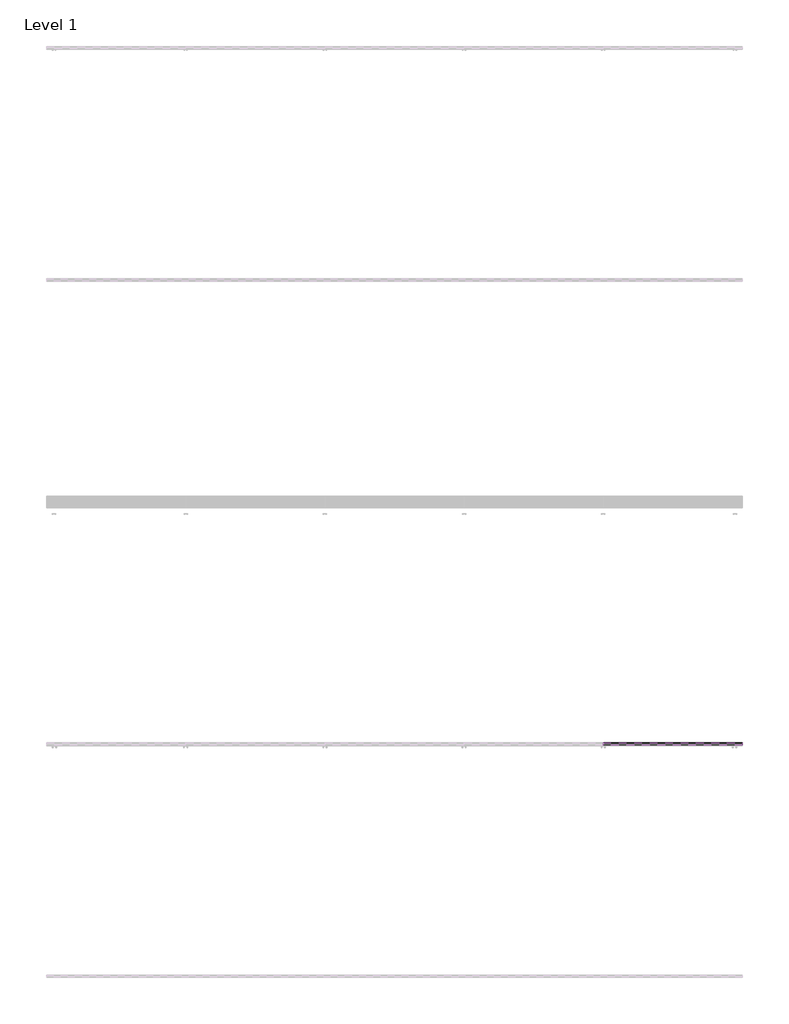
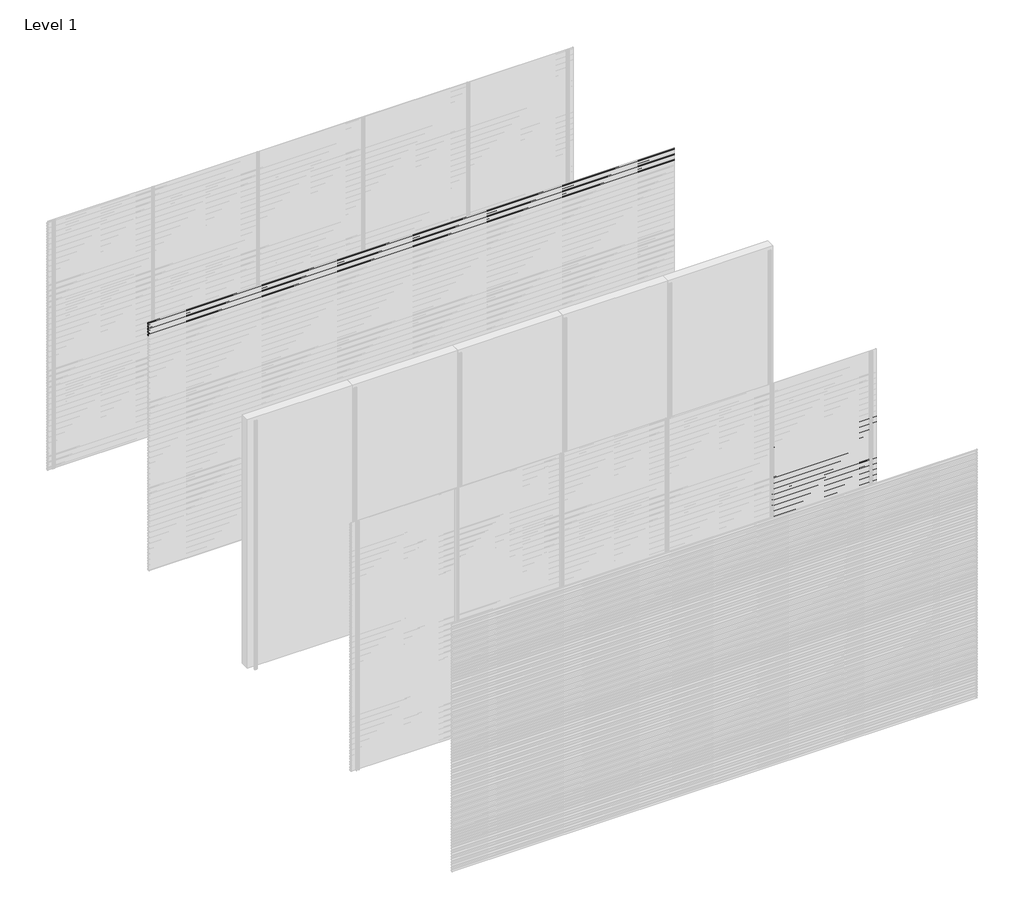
# One storey, part 70 of 77: 72 proxies.
"""IFC4 building model written with IfcOpenShell, lengths in millimetres."""

from ifc_helpers import new_model, si_unit, frame, origin, place, context, project, spatial, polyline, outline, extrude, element, save

model = new_model("IFC4")

# Units and contexts
model_context = context("Model", 3, world=origin())
ifc_project = project(units=[si_unit("LENGTHUNIT", "METRE", prefix="MILLI")], contexts=[model_context])

# Site, building, storey
site = spatial("IfcSite", under=ifc_project)
building = spatial("IfcBuilding", under=site)
storey = spatial("IfcBuildingStorey", under=building, Name="Level 1", Elevation=0.0)

# Proxies
placement = place(None, origin())
element("IfcBuildingElementProxy", 1, Name="Wall Sweeps", at=placement, inside=storey, context=model_context, shape_type="SweptSolid", body=[
    extrude(outline(polyline([(-1978.6, 2972.5359887), (-1998.0, 2983.7366691), (-1998.0, 2997.0), (-1997.0, 2997.0), (-1997.0, 2984.3191057), (-1977.6, 2973.1185105), (-1977.6, 2959.5185105), (-1978.6, 2961.0953129), (-1978.6, 2966.9032062), (-1995.9773817, 2958.8), (-1996.4, 2959.7063078), (-1978.6, 2968.0065841), (-1978.6, 2972.5359887)])), frame((0.0, 0.0, 0.0), z_axis=(1.0, 0.0, 0.0), x_axis=(0.0, 1.0, 0.0)), (0.0, 0.0, 1.0), 6000.0),
])
element("IfcBuildingElementProxy", 2, Name="Wall Sweeps", at=placement, inside=storey, context=model_context, shape_type="SweptSolid", body=[
    extrude(outline(polyline([(-1978.6, 2939.2359887), (-1998.0, 2950.4366691), (-1998.0, 2963.7), (-1997.0, 2963.7), (-1997.0, 2951.0191057), (-1977.6, 2939.8185105), (-1977.6, 2926.2185105), (-1978.6, 2927.7953129), (-1978.6, 2933.6032062), (-1995.9773817, 2925.5), (-1996.4, 2926.4063078), (-1978.6, 2934.7065841), (-1978.6, 2939.2359887)])), frame((0.0, 0.0, 0.0), z_axis=(1.0, 0.0, 0.0), x_axis=(0.0, 1.0, 0.0)), (0.0, 0.0, 1.0), 6000.0),
])
element("IfcBuildingElementProxy", 3, Name="Wall Sweeps", at=placement, inside=storey, context=model_context, shape_type="SweptSolid", body=[
    extrude(outline(polyline([(-1978.6, 2905.9359887), (-1998.0, 2917.1366691), (-1998.0, 2930.4), (-1997.0, 2930.4), (-1997.0, 2917.7191057), (-1977.6, 2906.5185105), (-1977.6, 2892.9185105), (-1978.6, 2894.4953129), (-1978.6, 2900.3032062), (-1995.9773817, 2892.2), (-1996.4, 2893.1063078), (-1978.6, 2901.4065841), (-1978.6, 2905.9359887)])), frame((0.0, 0.0, 0.0), z_axis=(1.0, 0.0, 0.0), x_axis=(0.0, 1.0, 0.0)), (0.0, 0.0, 1.0), 6000.0),
])
element("IfcBuildingElementProxy", 4, Name="Wall Sweeps", at=placement, inside=storey, context=model_context, shape_type="SweptSolid", body=[
    extrude(outline(polyline([(-1978.6, 2872.6359887), (-1998.0, 2883.8366691), (-1998.0, 2897.1), (-1997.0, 2897.1), (-1997.0, 2884.4191057), (-1977.6, 2873.2185105), (-1977.6, 2859.6185105), (-1978.6, 2861.1953129), (-1978.6, 2867.0032062), (-1995.9773817, 2858.9), (-1996.4, 2859.8063078), (-1978.6, 2868.1065841), (-1978.6, 2872.6359887)])), frame((0.0, 0.0, 0.0), z_axis=(1.0, 0.0, 0.0), x_axis=(0.0, 1.0, 0.0)), (0.0, 0.0, 1.0), 6000.0),
])
element("IfcBuildingElementProxy", 5, Name="Wall Sweeps", at=placement, inside=storey, context=model_context, shape_type="SweptSolid", body=[
    extrude(outline(polyline([(-1978.6, 2839.3359887), (-1998.0, 2850.5366691), (-1998.0, 2863.8), (-1997.0, 2863.8), (-1997.0, 2851.1191057), (-1977.6, 2839.9185105), (-1977.6, 2826.3185105), (-1978.6, 2827.8953129), (-1978.6, 2833.7032062), (-1995.9773817, 2825.6), (-1996.4, 2826.5063078), (-1978.6, 2834.8065841), (-1978.6, 2839.3359887)])), frame((0.0, 0.0, 0.0), z_axis=(1.0, 0.0, 0.0), x_axis=(0.0, 1.0, 0.0)), (0.0, 0.0, 1.0), 6000.0),
])
element("IfcBuildingElementProxy", 6, Name="Wall Sweeps", at=placement, inside=storey, context=model_context, shape_type="SweptSolid", body=[
    extrude(outline(polyline([(-5978.6, 2206.6359887), (-5998.0, 2217.8366691), (-5998.0, 2231.1), (-5997.0, 2231.1), (-5997.0, 2218.4191057), (-5977.6, 2207.2185105), (-5977.6, 2193.6185105), (-5978.6, 2195.1953129), (-5978.6, 2201.0032062), (-5995.9773817, 2192.9), (-5996.4, 2193.8063078), (-5978.6, 2202.1065841), (-5978.6, 2206.6359887)])), frame((4800.0, 0.0, 0.0), z_axis=(1.0, 0.0, 0.0), x_axis=(0.0, 1.0, 0.0)), (0.0, 0.0, 1.0), 1200.0),
])
element("IfcBuildingElementProxy", 7, Name="Wall Sweeps", at=placement, inside=storey, context=model_context, shape_type="SweptSolid", body=[
    extrude(outline(polyline([(-5978.6, 2173.3359887), (-5998.0, 2184.5366691), (-5998.0, 2197.8), (-5997.0, 2197.8), (-5997.0, 2185.1191057), (-5977.6, 2173.9185105), (-5977.6, 2160.3185105), (-5978.6, 2161.8953129), (-5978.6, 2167.7032062), (-5995.9773817, 2159.6), (-5996.4, 2160.5063078), (-5978.6, 2168.8065841), (-5978.6, 2173.3359887)])), frame((4800.0, 0.0, 0.0), z_axis=(1.0, 0.0, 0.0), x_axis=(0.0, 1.0, 0.0)), (0.0, 0.0, 1.0), 1200.0),
])
element("IfcBuildingElementProxy", 8, Name="Wall Sweeps", at=placement, inside=storey, context=model_context, shape_type="SweptSolid", body=[
    extrude(outline(polyline([(-5978.6, 2140.0359887), (-5998.0, 2151.2366691), (-5998.0, 2164.5), (-5997.0, 2164.5), (-5997.0, 2151.8191057), (-5977.6, 2140.6185105), (-5977.6, 2127.0185105), (-5978.6, 2128.5953129), (-5978.6, 2134.4032062), (-5995.9773817, 2126.3), (-5996.4, 2127.2063078), (-5978.6, 2135.5065841), (-5978.6, 2140.0359887)])), frame((4800.0, 0.0, 0.0), z_axis=(1.0, 0.0, 0.0), x_axis=(0.0, 1.0, 0.0)), (0.0, 0.0, 1.0), 1200.0),
])
element("IfcBuildingElementProxy", 9, Name="Wall Sweeps", at=placement, inside=storey, context=model_context, shape_type="SweptSolid", body=[
    extrude(outline(polyline([(-5978.6, 2106.7359887), (-5998.0, 2117.9366691), (-5998.0, 2131.2), (-5997.0, 2131.2), (-5997.0, 2118.5191057), (-5977.6, 2107.3185105), (-5977.6, 2093.7185105), (-5978.6, 2095.2953129), (-5978.6, 2101.1032062), (-5995.9773817, 2093.0), (-5996.4, 2093.9063078), (-5978.6, 2102.2065841), (-5978.6, 2106.7359887)])), frame((4800.0, 0.0, 0.0), z_axis=(1.0, 0.0, 0.0), x_axis=(0.0, 1.0, 0.0)), (0.0, 0.0, 1.0), 1200.0),
])
element("IfcBuildingElementProxy", 10, Name="Wall Sweeps", at=placement, inside=storey, context=model_context, shape_type="SweptSolid", body=[
    extrude(outline(polyline([(-5978.6, 2073.4359887), (-5998.0, 2084.6366691), (-5998.0, 2097.9), (-5997.0, 2097.9), (-5997.0, 2085.2191057), (-5977.6, 2074.0185105), (-5977.6, 2060.4185105), (-5978.6, 2061.9953129), (-5978.6, 2067.8032062), (-5995.9773817, 2059.7), (-5996.4, 2060.6063078), (-5978.6, 2068.9065841), (-5978.6, 2073.4359887)])), frame((4800.0, 0.0, 0.0), z_axis=(1.0, 0.0, 0.0), x_axis=(0.0, 1.0, 0.0)), (0.0, 0.0, 1.0), 1200.0),
])
element("IfcBuildingElementProxy", 11, Name="Wall Sweeps", at=placement, inside=storey, context=model_context, shape_type="SweptSolid", body=[
    extrude(outline(polyline([(-5978.6, 2040.1359887), (-5998.0, 2051.3366691), (-5998.0, 2064.6), (-5997.0, 2064.6), (-5997.0, 2051.9191057), (-5977.6, 2040.7185105), (-5977.6, 2027.1185105), (-5978.6, 2028.6953129), (-5978.6, 2034.5032062), (-5995.9773817, 2026.4), (-5996.4, 2027.3063078), (-5978.6, 2035.6065841), (-5978.6, 2040.1359887)])), frame((4800.0, 0.0, 0.0), z_axis=(1.0, 0.0, 0.0), x_axis=(0.0, 1.0, 0.0)), (0.0, 0.0, 1.0), 1200.0),
])
element("IfcBuildingElementProxy", 12, Name="Wall Sweeps", at=placement, inside=storey, context=model_context, shape_type="SweptSolid", body=[
    extrude(outline(polyline([(-5978.6, 2006.8359887), (-5998.0, 2018.0366691), (-5998.0, 2031.3), (-5997.0, 2031.3), (-5997.0, 2018.6191057), (-5977.6, 2007.4185105), (-5977.6, 1993.8185105), (-5978.6, 1995.3953129), (-5978.6, 2001.2032062), (-5995.9773817, 1993.1), (-5996.4, 1994.0063078), (-5978.6, 2002.3065841), (-5978.6, 2006.8359887)])), frame((4800.0, 0.0, 0.0), z_axis=(1.0, 0.0, 0.0), x_axis=(0.0, 1.0, 0.0)), (0.0, 0.0, 1.0), 1200.0),
])
element("IfcBuildingElementProxy", 13, Name="Wall Sweeps", at=placement, inside=storey, context=model_context, shape_type="SweptSolid", body=[
    extrude(outline(polyline([(-5978.6, 1973.5359887), (-5998.0, 1984.7366691), (-5998.0, 1998.0), (-5997.0, 1998.0), (-5997.0, 1985.3191057), (-5977.6, 1974.1185105), (-5977.6, 1960.5185105), (-5978.6, 1962.0953129), (-5978.6, 1967.9032062), (-5995.9773817, 1959.8), (-5996.4, 1960.7063078), (-5978.6, 1969.0065841), (-5978.6, 1973.5359887)])), frame((4800.0, 0.0, 0.0), z_axis=(1.0, 0.0, 0.0), x_axis=(0.0, 1.0, 0.0)), (0.0, 0.0, 1.0), 1200.0),
])
element("IfcBuildingElementProxy", 14, Name="Wall Sweeps", at=placement, inside=storey, context=model_context, shape_type="SweptSolid", body=[
    extrude(outline(polyline([(-5978.6, 1940.2359887), (-5998.0, 1951.4366691), (-5998.0, 1964.7), (-5997.0, 1964.7), (-5997.0, 1952.0191057), (-5977.6, 1940.8185105), (-5977.6, 1927.2185105), (-5978.6, 1928.7953129), (-5978.6, 1934.6032062), (-5995.9773817, 1926.5), (-5996.4, 1927.4063078), (-5978.6, 1935.7065841), (-5978.6, 1940.2359887)])), frame((4800.0, 0.0, 0.0), z_axis=(1.0, 0.0, 0.0), x_axis=(0.0, 1.0, 0.0)), (0.0, 0.0, 1.0), 1200.0),
])
element("IfcBuildingElementProxy", 15, Name="Wall Sweeps", at=placement, inside=storey, context=model_context, shape_type="SweptSolid", body=[
    extrude(outline(polyline([(-5978.6, 1906.9359887), (-5998.0, 1918.1366691), (-5998.0, 1931.4), (-5997.0, 1931.4), (-5997.0, 1918.7191057), (-5977.6, 1907.5185105), (-5977.6, 1893.9185105), (-5978.6, 1895.4953129), (-5978.6, 1901.3032062), (-5995.9773817, 1893.2), (-5996.4, 1894.1063078), (-5978.6, 1902.4065841), (-5978.6, 1906.9359887)])), frame((4800.0, 0.0, 0.0), z_axis=(1.0, 0.0, 0.0), x_axis=(0.0, 1.0, 0.0)), (0.0, 0.0, 1.0), 1200.0),
])
element("IfcBuildingElementProxy", 16, Name="Wall Sweeps", at=placement, inside=storey, context=model_context, shape_type="SweptSolid", body=[
    extrude(outline(polyline([(-5978.6, 1873.6359887), (-5998.0, 1884.8366691), (-5998.0, 1898.1), (-5997.0, 1898.1), (-5997.0, 1885.4191057), (-5977.6, 1874.2185105), (-5977.6, 1860.6185105), (-5978.6, 1862.1953129), (-5978.6, 1868.0032062), (-5995.9773817, 1859.9), (-5996.4, 1860.8063078), (-5978.6, 1869.1065841), (-5978.6, 1873.6359887)])), frame((4800.0, 0.0, 0.0), z_axis=(1.0, 0.0, 0.0), x_axis=(0.0, 1.0, 0.0)), (0.0, 0.0, 1.0), 1200.0),
])
element("IfcBuildingElementProxy", 17, Name="Wall Sweeps", at=placement, inside=storey, context=model_context, shape_type="SweptSolid", body=[
    extrude(outline(polyline([(-5978.6, 1840.3359887), (-5998.0, 1851.5366691), (-5998.0, 1864.8), (-5997.0, 1864.8), (-5997.0, 1852.1191057), (-5977.6, 1840.9185105), (-5977.6, 1827.3185105), (-5978.6, 1828.8953129), (-5978.6, 1834.7032062), (-5995.9773817, 1826.6), (-5996.4, 1827.5063078), (-5978.6, 1835.8065841), (-5978.6, 1840.3359887)])), frame((4800.0, 0.0, 0.0), z_axis=(1.0, 0.0, 0.0), x_axis=(0.0, 1.0, 0.0)), (0.0, 0.0, 1.0), 1200.0),
])
element("IfcBuildingElementProxy", 18, Name="Wall Sweeps", at=placement, inside=storey, context=model_context, shape_type="SweptSolid", body=[
    extrude(outline(polyline([(-5978.6, 1807.0359887), (-5998.0, 1818.2366691), (-5998.0, 1831.5), (-5997.0, 1831.5), (-5997.0, 1818.8191057), (-5977.6, 1807.6185105), (-5977.6, 1794.0185105), (-5978.6, 1795.5953129), (-5978.6, 1801.4032062), (-5995.9773817, 1793.3), (-5996.4, 1794.2063078), (-5978.6, 1802.5065841), (-5978.6, 1807.0359887)])), frame((4800.0, 0.0, 0.0), z_axis=(1.0, 0.0, 0.0), x_axis=(0.0, 1.0, 0.0)), (0.0, 0.0, 1.0), 1200.0),
])
element("IfcBuildingElementProxy", 19, Name="Wall Sweeps", at=placement, inside=storey, context=model_context, shape_type="SweptSolid", body=[
    extrude(outline(polyline([(-5978.6, 1773.7359887), (-5998.0, 1784.9366691), (-5998.0, 1798.2), (-5997.0, 1798.2), (-5997.0, 1785.5191057), (-5977.6, 1774.3185105), (-5977.6, 1760.7185105), (-5978.6, 1762.2953129), (-5978.6, 1768.1032062), (-5995.9773817, 1760.0), (-5996.4, 1760.9063078), (-5978.6, 1769.2065841), (-5978.6, 1773.7359887)])), frame((4800.0, 0.0, 0.0), z_axis=(1.0, 0.0, 0.0), x_axis=(0.0, 1.0, 0.0)), (0.0, 0.0, 1.0), 1200.0),
])
element("IfcBuildingElementProxy", 20, Name="Wall Sweeps", at=placement, inside=storey, context=model_context, shape_type="SweptSolid", body=[
    extrude(outline(polyline([(-5978.6, 1740.4359887), (-5998.0, 1751.6366691), (-5998.0, 1764.9), (-5997.0, 1764.9), (-5997.0, 1752.2191057), (-5977.6, 1741.0185105), (-5977.6, 1727.4185105), (-5978.6, 1728.9953129), (-5978.6, 1734.8032062), (-5995.9773817, 1726.7), (-5996.4, 1727.6063078), (-5978.6, 1735.9065841), (-5978.6, 1740.4359887)])), frame((4800.0, 0.0, 0.0), z_axis=(1.0, 0.0, 0.0), x_axis=(0.0, 1.0, 0.0)), (0.0, 0.0, 1.0), 1200.0),
])
element("IfcBuildingElementProxy", 21, Name="Wall Sweeps", at=placement, inside=storey, context=model_context, shape_type="SweptSolid", body=[
    extrude(outline(polyline([(-5978.6, 1707.1359887), (-5998.0, 1718.3366691), (-5998.0, 1731.6), (-5997.0, 1731.6), (-5997.0, 1718.9191057), (-5977.6, 1707.7185105), (-5977.6, 1694.1185105), (-5978.6, 1695.6953129), (-5978.6, 1701.5032062), (-5995.9773817, 1693.4), (-5996.4, 1694.3063078), (-5978.6, 1702.6065841), (-5978.6, 1707.1359887)])), frame((4800.0, 0.0, 0.0), z_axis=(1.0, 0.0, 0.0), x_axis=(0.0, 1.0, 0.0)), (0.0, 0.0, 1.0), 1200.0),
])
element("IfcBuildingElementProxy", 22, Name="Wall Sweeps", at=placement, inside=storey, context=model_context, shape_type="SweptSolid", body=[
    extrude(outline(polyline([(-5978.6, 1673.8359887), (-5998.0, 1685.0366691), (-5998.0, 1698.3), (-5997.0, 1698.3), (-5997.0, 1685.6191057), (-5977.6, 1674.4185105), (-5977.6, 1660.8185105), (-5978.6, 1662.3953129), (-5978.6, 1668.2032062), (-5995.9773817, 1660.1), (-5996.4, 1661.0063078), (-5978.6, 1669.3065841), (-5978.6, 1673.8359887)])), frame((4800.0, 0.0, 0.0), z_axis=(1.0, 0.0, 0.0), x_axis=(0.0, 1.0, 0.0)), (0.0, 0.0, 1.0), 1200.0),
])
element("IfcBuildingElementProxy", 23, Name="Wall Sweeps", at=placement, inside=storey, context=model_context, shape_type="SweptSolid", body=[
    extrude(outline(polyline([(-5978.6, 1640.5359887), (-5998.0, 1651.7366691), (-5998.0, 1665.0), (-5997.0, 1665.0), (-5997.0, 1652.3191057), (-5977.6, 1641.1185105), (-5977.6, 1627.5185105), (-5978.6, 1629.0953129), (-5978.6, 1634.9032062), (-5995.9773817, 1626.8), (-5996.4, 1627.7063078), (-5978.6, 1636.0065841), (-5978.6, 1640.5359887)])), frame((4800.0, 0.0, 0.0), z_axis=(1.0, 0.0, 0.0), x_axis=(0.0, 1.0, 0.0)), (0.0, 0.0, 1.0), 1200.0),
])
element("IfcBuildingElementProxy", 24, Name="Wall Sweeps", at=placement, inside=storey, context=model_context, shape_type="SweptSolid", body=[
    extrude(outline(polyline([(-5978.6, 1607.2359887), (-5998.0, 1618.4366691), (-5998.0, 1631.7), (-5997.0, 1631.7), (-5997.0, 1619.0191057), (-5977.6, 1607.8185105), (-5977.6, 1594.2185105), (-5978.6, 1595.7953129), (-5978.6, 1601.6032062), (-5995.9773817, 1593.5), (-5996.4, 1594.4063078), (-5978.6, 1602.7065841), (-5978.6, 1607.2359887)])), frame((4800.0, 0.0, 0.0), z_axis=(1.0, 0.0, 0.0), x_axis=(0.0, 1.0, 0.0)), (0.0, 0.0, 1.0), 1200.0),
])
element("IfcBuildingElementProxy", 25, Name="Wall Sweeps", at=placement, inside=storey, context=model_context, shape_type="SweptSolid", body=[
    extrude(outline(polyline([(-5978.6, 1573.9359887), (-5998.0, 1585.1366691), (-5998.0, 1598.4), (-5997.0, 1598.4), (-5997.0, 1585.7191057), (-5977.6, 1574.5185105), (-5977.6, 1560.9185105), (-5978.6, 1562.4953129), (-5978.6, 1568.3032062), (-5995.9773817, 1560.2), (-5996.4, 1561.1063078), (-5978.6, 1569.4065841), (-5978.6, 1573.9359887)])), frame((4800.0, 0.0, 0.0), z_axis=(1.0, 0.0, 0.0), x_axis=(0.0, 1.0, 0.0)), (0.0, 0.0, 1.0), 1200.0),
])
element("IfcBuildingElementProxy", 26, Name="Wall Sweeps", at=placement, inside=storey, context=model_context, shape_type="SweptSolid", body=[
    extrude(outline(polyline([(-5978.6, 1540.6359887), (-5998.0, 1551.8366691), (-5998.0, 1565.1), (-5997.0, 1565.1), (-5997.0, 1552.4191057), (-5977.6, 1541.2185105), (-5977.6, 1527.6185105), (-5978.6, 1529.1953129), (-5978.6, 1535.0032062), (-5995.9773817, 1526.9), (-5996.4, 1527.8063078), (-5978.6, 1536.1065841), (-5978.6, 1540.6359887)])), frame((4800.0, 0.0, 0.0), z_axis=(1.0, 0.0, 0.0), x_axis=(0.0, 1.0, 0.0)), (0.0, 0.0, 1.0), 1200.0),
])
element("IfcBuildingElementProxy", 27, Name="Wall Sweeps", at=placement, inside=storey, context=model_context, shape_type="SweptSolid", body=[
    extrude(outline(polyline([(-5978.6, 1507.3359887), (-5998.0, 1518.5366691), (-5998.0, 1531.8), (-5997.0, 1531.8), (-5997.0, 1519.1191057), (-5977.6, 1507.9185105), (-5977.6, 1494.3185105), (-5978.6, 1495.8953129), (-5978.6, 1501.7032062), (-5995.9773817, 1493.6), (-5996.4, 1494.5063078), (-5978.6, 1502.8065841), (-5978.6, 1507.3359887)])), frame((4800.0, 0.0, 0.0), z_axis=(1.0, 0.0, 0.0), x_axis=(0.0, 1.0, 0.0)), (0.0, 0.0, 1.0), 1200.0),
])
element("IfcBuildingElementProxy", 28, Name="Wall Sweeps", at=placement, inside=storey, context=model_context, shape_type="SweptSolid", body=[
    extrude(outline(polyline([(-5978.6, 1474.0359887), (-5998.0, 1485.2366691), (-5998.0, 1498.5), (-5997.0, 1498.5), (-5997.0, 1485.8191057), (-5977.6, 1474.6185105), (-5977.6, 1461.0185105), (-5978.6, 1462.5953129), (-5978.6, 1468.4032062), (-5995.9773817, 1460.3), (-5996.4, 1461.2063078), (-5978.6, 1469.5065841), (-5978.6, 1474.0359887)])), frame((4800.0, 0.0, 0.0), z_axis=(1.0, 0.0, 0.0), x_axis=(0.0, 1.0, 0.0)), (0.0, 0.0, 1.0), 1200.0),
])
element("IfcBuildingElementProxy", 29, Name="Wall Sweeps", at=placement, inside=storey, context=model_context, shape_type="SweptSolid", body=[
    extrude(outline(polyline([(-5978.6, 1440.7359887), (-5998.0, 1451.9366691), (-5998.0, 1465.2), (-5997.0, 1465.2), (-5997.0, 1452.5191057), (-5977.6, 1441.3185105), (-5977.6, 1427.7185105), (-5978.6, 1429.2953129), (-5978.6, 1435.1032062), (-5995.9773817, 1427.0), (-5996.4, 1427.9063078), (-5978.6, 1436.2065841), (-5978.6, 1440.7359887)])), frame((4800.0, 0.0, 0.0), z_axis=(1.0, 0.0, 0.0), x_axis=(0.0, 1.0, 0.0)), (0.0, 0.0, 1.0), 1200.0),
])
element("IfcBuildingElementProxy", 30, Name="Wall Sweeps", at=placement, inside=storey, context=model_context, shape_type="SweptSolid", body=[
    extrude(outline(polyline([(-5978.6, 1407.4359887), (-5998.0, 1418.6366691), (-5998.0, 1431.9), (-5997.0, 1431.9), (-5997.0, 1419.2191057), (-5977.6, 1408.0185105), (-5977.6, 1394.4185105), (-5978.6, 1395.9953129), (-5978.6, 1401.8032062), (-5995.9773817, 1393.7), (-5996.4, 1394.6063078), (-5978.6, 1402.9065841), (-5978.6, 1407.4359887)])), frame((4800.0, 0.0, 0.0), z_axis=(1.0, 0.0, 0.0), x_axis=(0.0, 1.0, 0.0)), (0.0, 0.0, 1.0), 1200.0),
])
element("IfcBuildingElementProxy", 31, Name="Wall Sweeps", at=placement, inside=storey, context=model_context, shape_type="SweptSolid", body=[
    extrude(outline(polyline([(-5978.6, 1374.1359887), (-5998.0, 1385.3366691), (-5998.0, 1398.6), (-5997.0, 1398.6), (-5997.0, 1385.9191057), (-5977.6, 1374.7185105), (-5977.6, 1361.1185105), (-5978.6, 1362.6953129), (-5978.6, 1368.5032062), (-5995.9773817, 1360.4), (-5996.4, 1361.3063078), (-5978.6, 1369.6065841), (-5978.6, 1374.1359887)])), frame((4800.0, 0.0, 0.0), z_axis=(1.0, 0.0, 0.0), x_axis=(0.0, 1.0, 0.0)), (0.0, 0.0, 1.0), 1200.0),
])
element("IfcBuildingElementProxy", 32, Name="Wall Sweeps", at=placement, inside=storey, context=model_context, shape_type="SweptSolid", body=[
    extrude(outline(polyline([(-5978.6, 1340.8359887), (-5998.0, 1352.0366691), (-5998.0, 1365.3), (-5997.0, 1365.3), (-5997.0, 1352.6191057), (-5977.6, 1341.4185105), (-5977.6, 1327.8185105), (-5978.6, 1329.3953129), (-5978.6, 1335.2032062), (-5995.9773817, 1327.1), (-5996.4, 1328.0063078), (-5978.6, 1336.3065841), (-5978.6, 1340.8359887)])), frame((4800.0, 0.0, 0.0), z_axis=(1.0, 0.0, 0.0), x_axis=(0.0, 1.0, 0.0)), (0.0, 0.0, 1.0), 1200.0),
])
element("IfcBuildingElementProxy", 33, Name="Wall Sweeps", at=placement, inside=storey, context=model_context, shape_type="SweptSolid", body=[
    extrude(outline(polyline([(-5978.6, 1307.5359887), (-5998.0, 1318.7366691), (-5998.0, 1332.0), (-5997.0, 1332.0), (-5997.0, 1319.3191057), (-5977.6, 1308.1185105), (-5977.6, 1294.5185105), (-5978.6, 1296.0953129), (-5978.6, 1301.9032062), (-5995.9773817, 1293.8), (-5996.4, 1294.7063078), (-5978.6, 1303.0065841), (-5978.6, 1307.5359887)])), frame((4800.0, 0.0, 0.0), z_axis=(1.0, 0.0, 0.0), x_axis=(0.0, 1.0, 0.0)), (0.0, 0.0, 1.0), 1200.0),
])
element("IfcBuildingElementProxy", 34, Name="Wall Sweeps", at=placement, inside=storey, context=model_context, shape_type="SweptSolid", body=[
    extrude(outline(polyline([(-5978.6, 1274.2359887), (-5998.0, 1285.4366691), (-5998.0, 1298.7), (-5997.0, 1298.7), (-5997.0, 1286.0191057), (-5977.6, 1274.8185105), (-5977.6, 1261.2185105), (-5978.6, 1262.7953129), (-5978.6, 1268.6032062), (-5995.9773817, 1260.5), (-5996.4, 1261.4063078), (-5978.6, 1269.7065841), (-5978.6, 1274.2359887)])), frame((4800.0, 0.0, 0.0), z_axis=(1.0, 0.0, 0.0), x_axis=(0.0, 1.0, 0.0)), (0.0, 0.0, 1.0), 1200.0),
])
element("IfcBuildingElementProxy", 35, Name="Wall Sweeps", at=placement, inside=storey, context=model_context, shape_type="SweptSolid", body=[
    extrude(outline(polyline([(-5978.6, 1240.9359887), (-5998.0, 1252.1366691), (-5998.0, 1265.4), (-5997.0, 1265.4), (-5997.0, 1252.7191057), (-5977.6, 1241.5185105), (-5977.6, 1227.9185105), (-5978.6, 1229.4953129), (-5978.6, 1235.3032062), (-5995.9773817, 1227.2), (-5996.4, 1228.1063078), (-5978.6, 1236.4065841), (-5978.6, 1240.9359887)])), frame((4800.0, 0.0, 0.0), z_axis=(1.0, 0.0, 0.0), x_axis=(0.0, 1.0, 0.0)), (0.0, 0.0, 1.0), 1200.0),
])
element("IfcBuildingElementProxy", 36, Name="Wall Sweeps", at=placement, inside=storey, context=model_context, shape_type="SweptSolid", body=[
    extrude(outline(polyline([(-5978.6, 1207.6359887), (-5998.0, 1218.8366691), (-5998.0, 1232.1), (-5997.0, 1232.1), (-5997.0, 1219.4191057), (-5977.6, 1208.2185105), (-5977.6, 1194.6185105), (-5978.6, 1196.1953129), (-5978.6, 1202.0032062), (-5995.9773817, 1193.9), (-5996.4, 1194.8063078), (-5978.6, 1203.1065841), (-5978.6, 1207.6359887)])), frame((4800.0, 0.0, 0.0), z_axis=(1.0, 0.0, 0.0), x_axis=(0.0, 1.0, 0.0)), (0.0, 0.0, 1.0), 1200.0),
])
element("IfcBuildingElementProxy", 37, Name="Wall Sweeps", at=placement, inside=storey, context=model_context, shape_type="SweptSolid", body=[
    extrude(outline(polyline([(-5978.6, 1174.3359887), (-5998.0, 1185.5366691), (-5998.0, 1198.8), (-5997.0, 1198.8), (-5997.0, 1186.1191057), (-5977.6, 1174.9185105), (-5977.6, 1161.3185105), (-5978.6, 1162.8953129), (-5978.6, 1168.7032062), (-5995.9773817, 1160.6), (-5996.4, 1161.5063078), (-5978.6, 1169.8065841), (-5978.6, 1174.3359887)])), frame((4800.0, 0.0, 0.0), z_axis=(1.0, 0.0, 0.0), x_axis=(0.0, 1.0, 0.0)), (0.0, 0.0, 1.0), 1200.0),
])
element("IfcBuildingElementProxy", 38, Name="Wall Sweeps", at=placement, inside=storey, context=model_context, shape_type="SweptSolid", body=[
    extrude(outline(polyline([(-5978.6, 1141.0359887), (-5998.0, 1152.2366691), (-5998.0, 1165.5), (-5997.0, 1165.5), (-5997.0, 1152.8191057), (-5977.6, 1141.6185105), (-5977.6, 1128.0185105), (-5978.6, 1129.5953129), (-5978.6, 1135.4032062), (-5995.9773817, 1127.3), (-5996.4, 1128.2063078), (-5978.6, 1136.5065841), (-5978.6, 1141.0359887)])), frame((4800.0, 0.0, 0.0), z_axis=(1.0, 0.0, 0.0), x_axis=(0.0, 1.0, 0.0)), (0.0, 0.0, 1.0), 1200.0),
])
element("IfcBuildingElementProxy", 39, Name="Wall Sweeps", at=placement, inside=storey, context=model_context, shape_type="SweptSolid", body=[
    extrude(outline(polyline([(-5978.6, 1107.7359887), (-5998.0, 1118.9366691), (-5998.0, 1132.2), (-5997.0, 1132.2), (-5997.0, 1119.5191057), (-5977.6, 1108.3185105), (-5977.6, 1094.7185105), (-5978.6, 1096.2953129), (-5978.6, 1102.1032062), (-5995.9773817, 1094.0), (-5996.4, 1094.9063078), (-5978.6, 1103.2065841), (-5978.6, 1107.7359887)])), frame((4800.0, 0.0, 0.0), z_axis=(1.0, 0.0, 0.0), x_axis=(0.0, 1.0, 0.0)), (0.0, 0.0, 1.0), 1200.0),
])
element("IfcBuildingElementProxy", 40, Name="Wall Sweeps", at=placement, inside=storey, context=model_context, shape_type="SweptSolid", body=[
    extrude(outline(polyline([(-5978.6, 1074.4359887), (-5998.0, 1085.6366691), (-5998.0, 1098.9), (-5997.0, 1098.9), (-5997.0, 1086.2191057), (-5977.6, 1075.0185105), (-5977.6, 1061.4185105), (-5978.6, 1062.9953129), (-5978.6, 1068.8032062), (-5995.9773817, 1060.7), (-5996.4, 1061.6063078), (-5978.6, 1069.9065841), (-5978.6, 1074.4359887)])), frame((4800.0, 0.0, 0.0), z_axis=(1.0, 0.0, 0.0), x_axis=(0.0, 1.0, 0.0)), (0.0, 0.0, 1.0), 1200.0),
])
element("IfcBuildingElementProxy", 41, Name="Wall Sweeps", at=placement, inside=storey, context=model_context, shape_type="SweptSolid", body=[
    extrude(outline(polyline([(-5978.6, 1041.1359887), (-5998.0, 1052.3366691), (-5998.0, 1065.6), (-5997.0, 1065.6), (-5997.0, 1052.9191057), (-5977.6, 1041.7185105), (-5977.6, 1028.1185105), (-5978.6, 1029.6953129), (-5978.6, 1035.5032062), (-5995.9773817, 1027.4), (-5996.4, 1028.3063078), (-5978.6, 1036.6065841), (-5978.6, 1041.1359887)])), frame((4800.0, 0.0, 0.0), z_axis=(1.0, 0.0, 0.0), x_axis=(0.0, 1.0, 0.0)), (0.0, 0.0, 1.0), 1200.0),
])
element("IfcBuildingElementProxy", 42, Name="Wall Sweeps", at=placement, inside=storey, context=model_context, shape_type="SweptSolid", body=[
    extrude(outline(polyline([(-5978.6, 1007.8359887), (-5998.0, 1019.0366691), (-5998.0, 1032.3), (-5997.0, 1032.3), (-5997.0, 1019.6191057), (-5977.6, 1008.4185105), (-5977.6, 994.8185105), (-5978.6, 996.3953129), (-5978.6, 1002.2032062), (-5995.9773817, 994.1), (-5996.4, 995.0063078), (-5978.6, 1003.3065841), (-5978.6, 1007.8359887)])), frame((4800.0, 0.0, 0.0), z_axis=(1.0, 0.0, 0.0), x_axis=(0.0, 1.0, 0.0)), (0.0, 0.0, 1.0), 1200.0),
])
element("IfcBuildingElementProxy", 43, Name="Wall Sweeps", at=placement, inside=storey, context=model_context, shape_type="SweptSolid", body=[
    extrude(outline(polyline([(-5978.6, 974.5359887), (-5998.0, 985.7366691), (-5998.0, 999.0), (-5997.0, 999.0), (-5997.0, 986.3191057), (-5977.6, 975.1185105), (-5977.6, 961.5185105), (-5978.6, 963.0953129), (-5978.6, 968.9032062), (-5995.9773817, 960.8), (-5996.4, 961.7063078), (-5978.6, 970.0065841), (-5978.6, 974.5359887)])), frame((4800.0, 0.0, 0.0), z_axis=(1.0, 0.0, 0.0), x_axis=(0.0, 1.0, 0.0)), (0.0, 0.0, 1.0), 1200.0),
])
element("IfcBuildingElementProxy", 44, Name="Wall Sweeps", at=placement, inside=storey, context=model_context, shape_type="SweptSolid", body=[
    extrude(outline(polyline([(-5978.6, 941.2359887), (-5998.0, 952.4366691), (-5998.0, 965.7), (-5997.0, 965.7), (-5997.0, 953.0191057), (-5977.6, 941.8185105), (-5977.6, 928.2185105), (-5978.6, 929.7953129), (-5978.6, 935.6032062), (-5995.9773817, 927.5), (-5996.4, 928.4063078), (-5978.6, 936.7065841), (-5978.6, 941.2359887)])), frame((4800.0, 0.0, 0.0), z_axis=(1.0, 0.0, 0.0), x_axis=(0.0, 1.0, 0.0)), (0.0, 0.0, 1.0), 1200.0),
])
element("IfcBuildingElementProxy", 45, Name="Wall Sweeps", at=placement, inside=storey, context=model_context, shape_type="SweptSolid", body=[
    extrude(outline(polyline([(-5978.6, 907.9359887), (-5998.0, 919.1366691), (-5998.0, 932.4), (-5997.0, 932.4), (-5997.0, 919.7191057), (-5977.6, 908.5185105), (-5977.6, 894.9185105), (-5978.6, 896.4953129), (-5978.6, 902.3032062), (-5995.9773817, 894.2), (-5996.4, 895.1063078), (-5978.6, 903.4065841), (-5978.6, 907.9359887)])), frame((4800.0, 0.0, 0.0), z_axis=(1.0, 0.0, 0.0), x_axis=(0.0, 1.0, 0.0)), (0.0, 0.0, 1.0), 1200.0),
])
element("IfcBuildingElementProxy", 46, Name="Wall Sweeps", at=placement, inside=storey, context=model_context, shape_type="SweptSolid", body=[
    extrude(outline(polyline([(-5978.6, 874.6359887), (-5998.0, 885.8366691), (-5998.0, 899.1), (-5997.0, 899.1), (-5997.0, 886.4191057), (-5977.6, 875.2185105), (-5977.6, 861.6185105), (-5978.6, 863.1953129), (-5978.6, 869.0032062), (-5995.9773817, 860.9), (-5996.4, 861.8063078), (-5978.6, 870.1065841), (-5978.6, 874.6359887)])), frame((4800.0, 0.0, 0.0), z_axis=(1.0, 0.0, 0.0), x_axis=(0.0, 1.0, 0.0)), (0.0, 0.0, 1.0), 1200.0),
])
element("IfcBuildingElementProxy", 47, Name="Wall Sweeps", at=placement, inside=storey, context=model_context, shape_type="SweptSolid", body=[
    extrude(outline(polyline([(-5978.6, 841.3359887), (-5998.0, 852.5366691), (-5998.0, 865.8), (-5997.0, 865.8), (-5997.0, 853.1191057), (-5977.6, 841.9185105), (-5977.6, 828.3185105), (-5978.6, 829.8953129), (-5978.6, 835.7032062), (-5995.9773817, 827.6), (-5996.4, 828.5063078), (-5978.6, 836.8065841), (-5978.6, 841.3359887)])), frame((4800.0, 0.0, 0.0), z_axis=(1.0, 0.0, 0.0), x_axis=(0.0, 1.0, 0.0)), (0.0, 0.0, 1.0), 1200.0),
])
element("IfcBuildingElementProxy", 48, Name="Wall Sweeps", at=placement, inside=storey, context=model_context, shape_type="SweptSolid", body=[
    extrude(outline(polyline([(-5978.6, 808.0359887), (-5998.0, 819.2366691), (-5998.0, 832.5), (-5997.0, 832.5), (-5997.0, 819.8191057), (-5977.6, 808.6185105), (-5977.6, 795.0185105), (-5978.6, 796.5953129), (-5978.6, 802.4032062), (-5995.9773817, 794.3), (-5996.4, 795.2063078), (-5978.6, 803.5065841), (-5978.6, 808.0359887)])), frame((4800.0, 0.0, 0.0), z_axis=(1.0, 0.0, 0.0), x_axis=(0.0, 1.0, 0.0)), (0.0, 0.0, 1.0), 1200.0),
])
element("IfcBuildingElementProxy", 49, Name="Wall Sweeps", at=placement, inside=storey, context=model_context, shape_type="SweptSolid", body=[
    extrude(outline(polyline([(-5978.6, 774.7359887), (-5998.0, 785.9366691), (-5998.0, 799.2), (-5997.0, 799.2), (-5997.0, 786.5191057), (-5977.6, 775.3185105), (-5977.6, 761.7185105), (-5978.6, 763.2953129), (-5978.6, 769.1032062), (-5995.9773817, 761.0), (-5996.4, 761.9063078), (-5978.6, 770.2065841), (-5978.6, 774.7359887)])), frame((4800.0, 0.0, 0.0), z_axis=(1.0, 0.0, 0.0), x_axis=(0.0, 1.0, 0.0)), (0.0, 0.0, 1.0), 1200.0),
])
element("IfcBuildingElementProxy", 50, Name="Wall Sweeps", at=placement, inside=storey, context=model_context, shape_type="SweptSolid", body=[
    extrude(outline(polyline([(-5978.6, 741.4359887), (-5998.0, 752.6366691), (-5998.0, 765.9), (-5997.0, 765.9), (-5997.0, 753.2191057), (-5977.6, 742.0185105), (-5977.6, 728.4185105), (-5978.6, 729.9953129), (-5978.6, 735.8032062), (-5995.9773817, 727.7), (-5996.4, 728.6063078), (-5978.6, 736.9065841), (-5978.6, 741.4359887)])), frame((4800.0, 0.0, 0.0), z_axis=(1.0, 0.0, 0.0), x_axis=(0.0, 1.0, 0.0)), (0.0, 0.0, 1.0), 1200.0),
])
element("IfcBuildingElementProxy", 51, Name="Wall Sweeps", at=placement, inside=storey, context=model_context, shape_type="SweptSolid", body=[
    extrude(outline(polyline([(-5978.6, 708.1359887), (-5998.0, 719.3366691), (-5998.0, 732.6), (-5997.0, 732.6), (-5997.0, 719.9191057), (-5977.6, 708.7185105), (-5977.6, 695.1185105), (-5978.6, 696.6953129), (-5978.6, 702.5032062), (-5995.9773817, 694.4), (-5996.4, 695.3063078), (-5978.6, 703.6065841), (-5978.6, 708.1359887)])), frame((4800.0, 0.0, 0.0), z_axis=(1.0, 0.0, 0.0), x_axis=(0.0, 1.0, 0.0)), (0.0, 0.0, 1.0), 1200.0),
])
element("IfcBuildingElementProxy", 52, Name="Wall Sweeps", at=placement, inside=storey, context=model_context, shape_type="SweptSolid", body=[
    extrude(outline(polyline([(-5978.6, 674.8359887), (-5998.0, 686.0366691), (-5998.0, 699.3), (-5997.0, 699.3), (-5997.0, 686.6191057), (-5977.6, 675.4185105), (-5977.6, 661.8185105), (-5978.6, 663.3953129), (-5978.6, 669.2032062), (-5995.9773817, 661.1), (-5996.4, 662.0063078), (-5978.6, 670.3065841), (-5978.6, 674.8359887)])), frame((4800.0, 0.0, 0.0), z_axis=(1.0, 0.0, 0.0), x_axis=(0.0, 1.0, 0.0)), (0.0, 0.0, 1.0), 1200.0),
])
element("IfcBuildingElementProxy", 53, Name="Wall Sweeps", at=placement, inside=storey, context=model_context, shape_type="SweptSolid", body=[
    extrude(outline(polyline([(-5978.6, 641.5359887), (-5998.0, 652.7366691), (-5998.0, 666.0), (-5997.0, 666.0), (-5997.0, 653.3191057), (-5977.6, 642.1185105), (-5977.6, 628.5185105), (-5978.6, 630.0953129), (-5978.6, 635.9032062), (-5995.9773817, 627.8), (-5996.4, 628.7063078), (-5978.6, 637.0065841), (-5978.6, 641.5359887)])), frame((4800.0, 0.0, 0.0), z_axis=(1.0, 0.0, 0.0), x_axis=(0.0, 1.0, 0.0)), (0.0, 0.0, 1.0), 1200.0),
])
element("IfcBuildingElementProxy", 54, Name="Wall Sweeps", at=placement, inside=storey, context=model_context, shape_type="SweptSolid", body=[
    extrude(outline(polyline([(-5978.6, 608.2359887), (-5998.0, 619.4366691), (-5998.0, 632.7), (-5997.0, 632.7), (-5997.0, 620.0191057), (-5977.6, 608.8185105), (-5977.6, 595.2185105), (-5978.6, 596.7953129), (-5978.6, 602.6032062), (-5995.9773817, 594.5), (-5996.4, 595.4063078), (-5978.6, 603.7065841), (-5978.6, 608.2359887)])), frame((4800.0, 0.0, 0.0), z_axis=(1.0, 0.0, 0.0), x_axis=(0.0, 1.0, 0.0)), (0.0, 0.0, 1.0), 1200.0),
])
element("IfcBuildingElementProxy", 55, Name="Wall Sweeps", at=placement, inside=storey, context=model_context, shape_type="SweptSolid", body=[
    extrude(outline(polyline([(-5978.6, 574.9359887), (-5998.0, 586.1366691), (-5998.0, 599.4), (-5997.0, 599.4), (-5997.0, 586.7191057), (-5977.6, 575.5185105), (-5977.6, 561.9185105), (-5978.6, 563.4953129), (-5978.6, 569.3032062), (-5995.9773817, 561.2), (-5996.4, 562.1063078), (-5978.6, 570.4065841), (-5978.6, 574.9359887)])), frame((4800.0, 0.0, 0.0), z_axis=(1.0, 0.0, 0.0), x_axis=(0.0, 1.0, 0.0)), (0.0, 0.0, 1.0), 1200.0),
])
element("IfcBuildingElementProxy", 56, Name="Wall Sweeps", at=placement, inside=storey, context=model_context, shape_type="SweptSolid", body=[
    extrude(outline(polyline([(-5978.6, 541.6359887), (-5998.0, 552.8366691), (-5998.0, 566.1), (-5997.0, 566.1), (-5997.0, 553.4191057), (-5977.6, 542.2185105), (-5977.6, 528.6185105), (-5978.6, 530.1953129), (-5978.6, 536.0032062), (-5995.9773817, 527.9), (-5996.4, 528.8063078), (-5978.6, 537.1065841), (-5978.6, 541.6359887)])), frame((4800.0, 0.0, 0.0), z_axis=(1.0, 0.0, 0.0), x_axis=(0.0, 1.0, 0.0)), (0.0, 0.0, 1.0), 1200.0),
])
element("IfcBuildingElementProxy", 57, Name="Wall Sweeps", at=placement, inside=storey, context=model_context, shape_type="SweptSolid", body=[
    extrude(outline(polyline([(-5978.6, 508.3359887), (-5998.0, 519.5366691), (-5998.0, 532.8), (-5997.0, 532.8), (-5997.0, 520.1191057), (-5977.6, 508.9185105), (-5977.6, 495.3185105), (-5978.6, 496.8953129), (-5978.6, 502.7032062), (-5995.9773817, 494.6), (-5996.4, 495.5063078), (-5978.6, 503.8065841), (-5978.6, 508.3359887)])), frame((4800.0, 0.0, 0.0), z_axis=(1.0, 0.0, 0.0), x_axis=(0.0, 1.0, 0.0)), (0.0, 0.0, 1.0), 1200.0),
])
element("IfcBuildingElementProxy", 58, Name="Wall Sweeps", at=placement, inside=storey, context=model_context, shape_type="SweptSolid", body=[
    extrude(outline(polyline([(-5978.6, 475.0359887), (-5998.0, 486.2366691), (-5998.0, 499.5), (-5997.0, 499.5), (-5997.0, 486.8191057), (-5977.6, 475.6185105), (-5977.6, 462.0185105), (-5978.6, 463.5953129), (-5978.6, 469.4032062), (-5995.9773817, 461.3), (-5996.4, 462.2063078), (-5978.6, 470.5065841), (-5978.6, 475.0359887)])), frame((4800.0, 0.0, 0.0), z_axis=(1.0, 0.0, 0.0), x_axis=(0.0, 1.0, 0.0)), (0.0, 0.0, 1.0), 1200.0),
])
element("IfcBuildingElementProxy", 59, Name="Wall Sweeps", at=placement, inside=storey, context=model_context, shape_type="SweptSolid", body=[
    extrude(outline(polyline([(-5978.6, 441.7359887), (-5998.0, 452.9366691), (-5998.0, 466.2), (-5997.0, 466.2), (-5997.0, 453.5191057), (-5977.6, 442.3185105), (-5977.6, 428.7185105), (-5978.6, 430.2953129), (-5978.6, 436.1032062), (-5995.9773817, 428.0), (-5996.4, 428.9063078), (-5978.6, 437.2065841), (-5978.6, 441.7359887)])), frame((4800.0, 0.0, 0.0), z_axis=(1.0, 0.0, 0.0), x_axis=(0.0, 1.0, 0.0)), (0.0, 0.0, 1.0), 1200.0),
])
element("IfcBuildingElementProxy", 60, Name="Wall Sweeps", at=placement, inside=storey, context=model_context, shape_type="SweptSolid", body=[
    extrude(outline(polyline([(-5978.6, 408.4359887), (-5998.0, 419.6366691), (-5998.0, 432.9), (-5997.0, 432.9), (-5997.0, 420.2191057), (-5977.6, 409.0185105), (-5977.6, 395.4185105), (-5978.6, 396.9953129), (-5978.6, 402.8032062), (-5995.9773817, 394.7), (-5996.4, 395.6063078), (-5978.6, 403.9065841), (-5978.6, 408.4359887)])), frame((4800.0, 0.0, 0.0), z_axis=(1.0, 0.0, 0.0), x_axis=(0.0, 1.0, 0.0)), (0.0, 0.0, 1.0), 1200.0),
])
element("IfcBuildingElementProxy", 61, Name="Wall Sweeps", at=placement, inside=storey, context=model_context, shape_type="SweptSolid", body=[
    extrude(outline(polyline([(-5978.6, 375.1359887), (-5998.0, 386.3366691), (-5998.0, 399.6), (-5997.0, 399.6), (-5997.0, 386.9191057), (-5977.6, 375.7185105), (-5977.6, 362.1185105), (-5978.6, 363.6953129), (-5978.6, 369.5032062), (-5995.9773817, 361.4), (-5996.4, 362.3063078), (-5978.6, 370.6065841), (-5978.6, 375.1359887)])), frame((4800.0, 0.0, 0.0), z_axis=(1.0, 0.0, 0.0), x_axis=(0.0, 1.0, 0.0)), (0.0, 0.0, 1.0), 1200.0),
])
element("IfcBuildingElementProxy", 62, Name="Wall Sweeps", at=placement, inside=storey, context=model_context, shape_type="SweptSolid", body=[
    extrude(outline(polyline([(-5978.6, 341.8359887), (-5998.0, 353.0366691), (-5998.0, 366.3), (-5997.0, 366.3), (-5997.0, 353.6191057), (-5977.6, 342.4185105), (-5977.6, 328.8185105), (-5978.6, 330.3953129), (-5978.6, 336.2032062), (-5995.9773817, 328.1), (-5996.4, 329.0063078), (-5978.6, 337.3065841), (-5978.6, 341.8359887)])), frame((4800.0, 0.0, 0.0), z_axis=(1.0, 0.0, 0.0), x_axis=(0.0, 1.0, 0.0)), (0.0, 0.0, 1.0), 1200.0),
])
element("IfcBuildingElementProxy", 63, Name="Wall Sweeps", at=placement, inside=storey, context=model_context, shape_type="SweptSolid", body=[
    extrude(outline(polyline([(-5978.6, 308.5359887), (-5998.0, 319.7366691), (-5998.0, 333.0), (-5997.0, 333.0), (-5997.0, 320.3191057), (-5977.6, 309.1185105), (-5977.6, 295.5185105), (-5978.6, 297.0953129), (-5978.6, 302.9032062), (-5995.9773817, 294.8), (-5996.4, 295.7063078), (-5978.6, 304.0065841), (-5978.6, 308.5359887)])), frame((4800.0, 0.0, 0.0), z_axis=(1.0, 0.0, 0.0), x_axis=(0.0, 1.0, 0.0)), (0.0, 0.0, 1.0), 1200.0),
])
element("IfcBuildingElementProxy", 64, Name="Wall Sweeps", at=placement, inside=storey, context=model_context, shape_type="SweptSolid", body=[
    extrude(outline(polyline([(-5978.6, 275.2359887), (-5998.0, 286.4366691), (-5998.0, 299.7), (-5997.0, 299.7), (-5997.0, 287.0191057), (-5977.6, 275.8185105), (-5977.6, 262.2185105), (-5978.6, 263.7953129), (-5978.6, 269.6032062), (-5995.9773817, 261.5), (-5996.4, 262.4063078), (-5978.6, 270.7065841), (-5978.6, 275.2359887)])), frame((4800.0, 0.0, 0.0), z_axis=(1.0, 0.0, 0.0), x_axis=(0.0, 1.0, 0.0)), (0.0, 0.0, 1.0), 1200.0),
])
element("IfcBuildingElementProxy", 65, Name="Wall Sweeps", at=placement, inside=storey, context=model_context, shape_type="SweptSolid", body=[
    extrude(outline(polyline([(-5978.6, 241.9359887), (-5998.0, 253.1366691), (-5998.0, 266.4), (-5997.0, 266.4), (-5997.0, 253.7191057), (-5977.6, 242.5185105), (-5977.6, 228.9185105), (-5978.6, 230.4953129), (-5978.6, 236.3032062), (-5995.9773817, 228.2), (-5996.4, 229.1063078), (-5978.6, 237.4065841), (-5978.6, 241.9359887)])), frame((4800.0, 0.0, 0.0), z_axis=(1.0, 0.0, 0.0), x_axis=(0.0, 1.0, 0.0)), (0.0, 0.0, 1.0), 1200.0),
])
element("IfcBuildingElementProxy", 66, Name="Wall Sweeps", at=placement, inside=storey, context=model_context, shape_type="SweptSolid", body=[
    extrude(outline(polyline([(-5978.6, 208.6359887), (-5998.0, 219.8366691), (-5998.0, 233.1), (-5997.0, 233.1), (-5997.0, 220.4191057), (-5977.6, 209.2185105), (-5977.6, 195.6185105), (-5978.6, 197.1953129), (-5978.6, 203.0032062), (-5995.9773817, 194.9), (-5996.4, 195.8063078), (-5978.6, 204.1065841), (-5978.6, 208.6359887)])), frame((4800.0, 0.0, 0.0), z_axis=(1.0, 0.0, 0.0), x_axis=(0.0, 1.0, 0.0)), (0.0, 0.0, 1.0), 1200.0),
])
element("IfcBuildingElementProxy", 67, Name="Wall Sweeps", at=placement, inside=storey, context=model_context, shape_type="SweptSolid", body=[
    extrude(outline(polyline([(-5978.6, 175.3359887), (-5998.0, 186.5366691), (-5998.0, 199.8), (-5997.0, 199.8), (-5997.0, 187.1191057), (-5977.6, 175.9185105), (-5977.6, 162.3185105), (-5978.6, 163.8953129), (-5978.6, 169.7032062), (-5995.9773817, 161.6), (-5996.4, 162.5063078), (-5978.6, 170.8065841), (-5978.6, 175.3359887)])), frame((4800.0, 0.0, 0.0), z_axis=(1.0, 0.0, 0.0), x_axis=(0.0, 1.0, 0.0)), (0.0, 0.0, 1.0), 1200.0),
])
element("IfcBuildingElementProxy", 68, Name="Wall Sweeps", at=placement, inside=storey, context=model_context, shape_type="SweptSolid", body=[
    extrude(outline(polyline([(-5978.6, 142.0359887), (-5998.0, 153.2366691), (-5998.0, 166.5), (-5997.0, 166.5), (-5997.0, 153.8191057), (-5977.6, 142.6185105), (-5977.6, 129.0185105), (-5978.6, 130.5953129), (-5978.6, 136.4032062), (-5995.9773817, 128.3), (-5996.4, 129.2063078), (-5978.6, 137.5065841), (-5978.6, 142.0359887)])), frame((4800.0, 0.0, 0.0), z_axis=(1.0, 0.0, 0.0), x_axis=(0.0, 1.0, 0.0)), (0.0, 0.0, 1.0), 1200.0),
])
element("IfcBuildingElementProxy", 69, Name="Wall Sweeps", at=placement, inside=storey, context=model_context, shape_type="SweptSolid", body=[
    extrude(outline(polyline([(-5978.6, 108.7359887), (-5998.0, 119.9366691), (-5998.0, 133.2), (-5997.0, 133.2), (-5997.0, 120.5191057), (-5977.6, 109.3185105), (-5977.6, 95.7185105), (-5978.6, 97.2953129), (-5978.6, 103.1032062), (-5995.9773817, 95.0), (-5996.4, 95.9063078), (-5978.6, 104.2065841), (-5978.6, 108.7359887)])), frame((4800.0, 0.0, 0.0), z_axis=(1.0, 0.0, 0.0), x_axis=(0.0, 1.0, 0.0)), (0.0, 0.0, 1.0), 1200.0),
])
element("IfcBuildingElementProxy", 70, Name="Wall Sweeps", at=placement, inside=storey, context=model_context, shape_type="SweptSolid", body=[
    extrude(outline(polyline([(-5978.6, 75.4359887), (-5998.0, 86.6366691), (-5998.0, 99.9), (-5997.0, 99.9), (-5997.0, 87.2191057), (-5977.6, 76.0185105), (-5977.6, 62.4185105), (-5978.6, 63.9953129), (-5978.6, 69.8032062), (-5995.9773817, 61.7), (-5996.4, 62.6063078), (-5978.6, 70.9065841), (-5978.6, 75.4359887)])), frame((4800.0, 0.0, 0.0), z_axis=(1.0, 0.0, 0.0), x_axis=(0.0, 1.0, 0.0)), (0.0, 0.0, 1.0), 1200.0),
])
element("IfcBuildingElementProxy", 71, Name="Wall Sweeps", at=placement, inside=storey, context=model_context, shape_type="SweptSolid", body=[
    extrude(outline(polyline([(-5978.6, 42.1359887), (-5998.0, 53.3366691), (-5998.0, 66.6), (-5997.0, 66.6), (-5997.0, 53.9191057), (-5977.6, 42.7185105), (-5977.6, 29.1185105), (-5978.6, 30.6953129), (-5978.6, 36.5032062), (-5995.9773817, 28.4), (-5996.4, 29.3063078), (-5978.6, 37.6065841), (-5978.6, 42.1359887)])), frame((4800.0, 0.0, 0.0), z_axis=(1.0, 0.0, 0.0), x_axis=(0.0, 1.0, 0.0)), (0.0, 0.0, 1.0), 1200.0),
])
element("IfcBuildingElementProxy", 72, Name="Wall Sweeps", at=placement, inside=storey, context=model_context, shape_type="SweptSolid", body=[
    extrude(outline(polyline([(-5978.6, 8.8359887), (-5998.0, 20.0366691), (-5998.0, 33.3), (-5997.0, 33.3), (-5997.0, 20.6191057), (-5977.6, 9.4185105), (-5977.6, -4.1814895), (-5978.6, -2.6046871), (-5978.6, 3.2032062), (-5995.9773817, -4.9), (-5996.4, -3.9936922), (-5978.6, 4.3065841), (-5978.6, 8.8359887)])), frame((4800.0, 0.0, 0.0), z_axis=(1.0, 0.0, 0.0), x_axis=(0.0, 1.0, 0.0)), (0.0, 0.0, 1.0), 1200.0),
])

save(model, "model.ifc")
